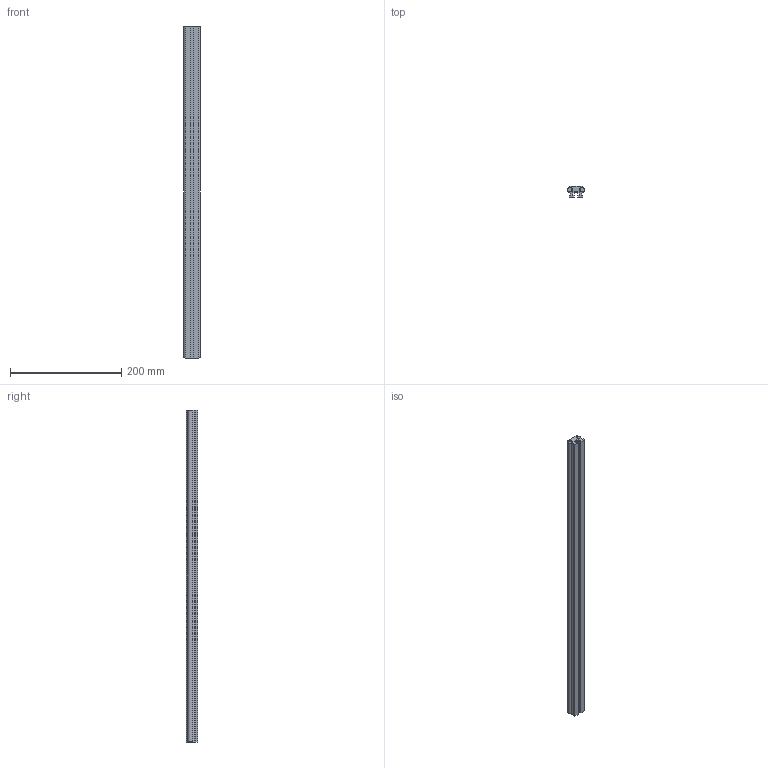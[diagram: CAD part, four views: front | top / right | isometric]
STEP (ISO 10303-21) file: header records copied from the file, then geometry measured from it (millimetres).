
FILE_DESCRIPTION (( 'STEP AP203' ), '1' );
FILE_NAME ('MLF 1_-_MLF 1 598 mm lang.step', '2005-06-03T08:17:19', ( ' ' ), ( ' ' ), 'SwSTEP 2.0', 'SolidWorks 2004231', '' );
FILE_SCHEMA (( 'CONFIG_CONTROL_DESIGN' ));
Length unit declared in the file: millimetre
Products named in the file (1): MLF 1_-_MLF 1  598 mm lang
Bounding box: 30 x 20 x 598 mm (x, y, z)
Volume: 241713.4 mm3; surface area: 105659.7 mm2
Topology: 1 solids, 1 shells, 72 faces, 222 edges, 144 vertices
Faces by surface type: plane 52, cylinder 20
Entity records: 2543 total; most frequent: ORIENTED_EDGE 444, CARTESIAN_POINT 439, DIRECTION 408, EDGE_CURVE 222, VECTOR 182, LINE 182, VERTEX_POINT 144, AXIS2_PLACEMENT_3D 113
